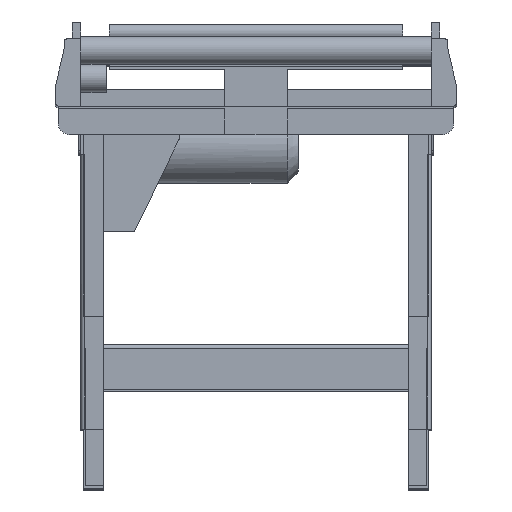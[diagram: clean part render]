
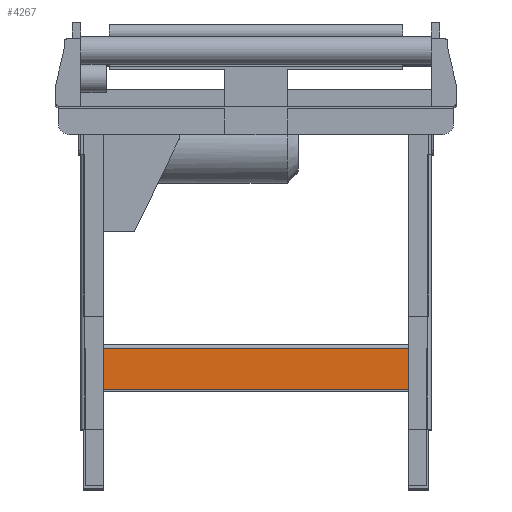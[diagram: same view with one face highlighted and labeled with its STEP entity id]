
A CAD part, top view. The second image highlights one B-rep face of the part: STEP entity #4267.
In plain terms, the highlighted planar face has unit normal (0, 0, 1).
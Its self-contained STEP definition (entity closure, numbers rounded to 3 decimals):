
#3385=CARTESIAN_POINT('',(-302.0,-429.,-230.));
#3386=VERTEX_POINT('',#3385);
#3387=CARTESIAN_POINT('',(-302.0,-501.,-230.));
#3388=VERTEX_POINT('',#3387);
#3389=CARTESIAN_POINT('',(-302.0,-429.0,-230.));
#3390=DIRECTION('',(0.0,-1.0,0.0));
#3391=VECTOR('',#3390,72.0);
#3392=LINE('',#3389,#3391);
#3393=EDGE_CURVE('',#3386,#3388,#3392,.T.);
#4118=CARTESIAN_POINT('',(302.0,-429.,-230.));
#4119=VERTEX_POINT('',#4118);
#4120=CARTESIAN_POINT('',(-302.0,-429.,-230.));
#4121=DIRECTION('',(1.0,0.0,0.0));
#4122=VECTOR('',#4121,604.0);
#4123=LINE('',#4120,#4122);
#4124=EDGE_CURVE('',#3386,#4119,#4123,.T.);
#4244=CARTESIAN_POINT('',(302.0,-501.,-230.));
#4245=DIRECTION('',(0.0,0.0,1.0));
#4246=DIRECTION('',(0.0,1.0,0.0));
#4247=AXIS2_PLACEMENT_3D('',#4244,#4245,#4246);
#4248=PLANE('',#4247);
#4249=ORIENTED_EDGE('',*,*,#4124,.F.);
#4250=ORIENTED_EDGE('',*,*,#3393,.T.);
#4251=CARTESIAN_POINT('',(302.0,-501.,-230.));
#4252=VERTEX_POINT('',#4251);
#4253=CARTESIAN_POINT('',(302.0,-501.,-230.));
#4254=DIRECTION('',(-1.0,0.0,0.0));
#4255=VECTOR('',#4254,604.0);
#4256=LINE('',#4253,#4255);
#4257=EDGE_CURVE('',#4252,#3388,#4256,.T.);
#4258=ORIENTED_EDGE('',*,*,#4257,.F.);
#4259=CARTESIAN_POINT('',(302.0,-429.0,-230.));
#4260=DIRECTION('',(0.0,-1.0,0.0));
#4261=VECTOR('',#4260,72.0);
#4262=LINE('',#4259,#4261);
#4263=EDGE_CURVE('',#4119,#4252,#4262,.T.);
#4264=ORIENTED_EDGE('',*,*,#4263,.F.);
#4265=EDGE_LOOP('',(#4249,#4250,#4258,#4264));
#4266=FACE_OUTER_BOUND('',#4265,.T.);
#4267=ADVANCED_FACE('',(#4266),#4248,.T.);
